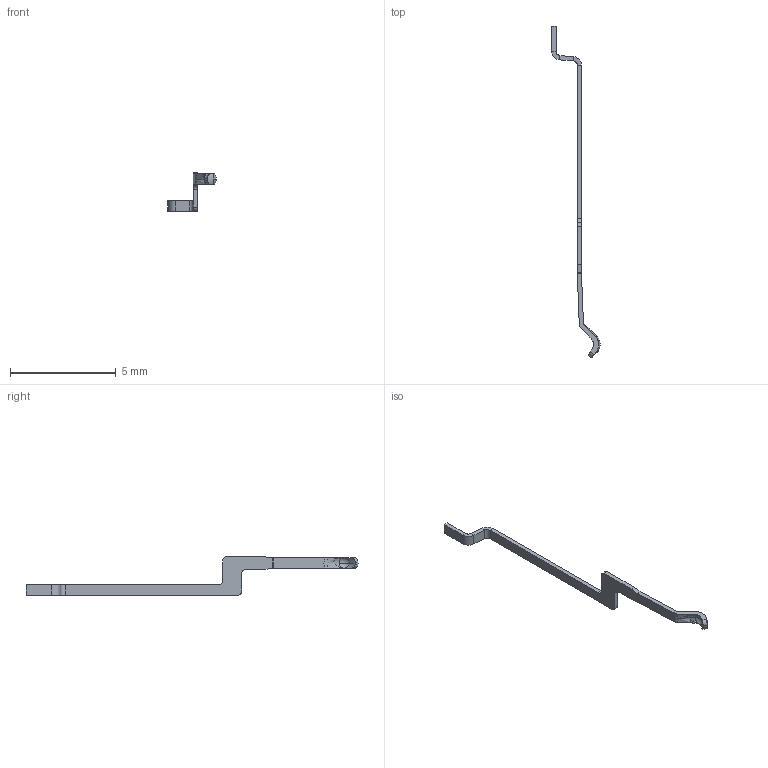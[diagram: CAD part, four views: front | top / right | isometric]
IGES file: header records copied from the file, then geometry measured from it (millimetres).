
Start section:  PTC IGES file: t-dsc20-200x00-2_1_prt.igs
Global section: file name: t-dsc20-200x00-2_1_prt.igs; native system: Pro/ENGINEER by Parametric Technology Corporation; preprocessor: 2006170; author: GRA; organization: Unknown; date: 20080630.105213; units: millimetre
Bounding box: 2.28 x 15.69 x 1.82 mm (x, y, z)
Surface area: 27 mm2 (no closed solid volume)
Topology: 0 solids, 0 shells, 53 faces, 270 edges, 266 vertices
Faces by surface type: bspline 32, revolution 21
